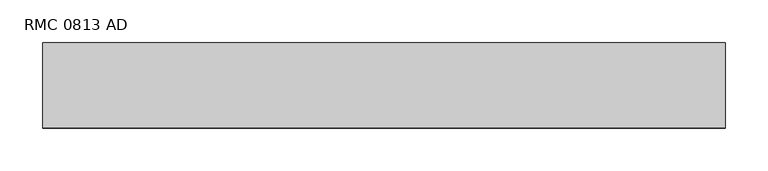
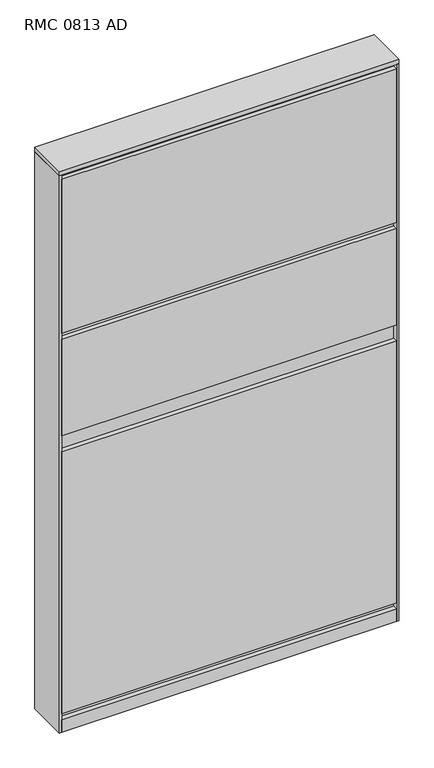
"""IFC4 building model written with IfcOpenShell, lengths in millimetres: furniture geometry, Mobiliário_MobiliáriodeEscritório_LinhaReasons_PainelCego1400mm(Acesso02Lados)-Melamina_Marelli : RMC 0813 AD."""

import ifcopenshell
import ifcopenshell.guid

model = None  # the IFC model being written
_history = None  # IfcOwnerHistory: only IFC2X3 demands one
_inside = {}  # id of a spatial element -> (the spatial element, [elements in it])
_under = {}  # id of a project, library or spatial element -> (it, [spatial elements below it])
_declared = {}  # id of a project -> (the project, [libraries it declares])
_typed = {}  # id of a type object -> (the type object, [elements of that type])
_made_of = {}  # id of a material, layer set ... -> (it, [elements and type objects made of it])


def new_model(schema):
    """Start an empty IFC model of exactly this schema.

    Asked for "IFC4X3", IfcOpenShell would pick the latest addendum, in which some entities
    have other attributes; the version numbers below select the first issue.
    IFC2X3 requires an IfcOwnerHistory on every rooted entity: one is made here for all.
    """
    global model, _history
    if schema == "IFC4X3":
        model = ifcopenshell.file(schema_version=(4, 3, 0, 0))
    else:
        model = ifcopenshell.file(schema=schema)
    _inside.clear()
    _under.clear()
    _declared.clear()
    _typed.clear()
    _made_of.clear()
    _history = None
    if model.schema == "IFC2X3":
        org = make("IfcOrganization", Name="unknown")
        user = make(
            "IfcPersonAndOrganization",
            ThePerson=make("IfcPerson", FamilyName="unknown"),
            TheOrganization=org,
        )
        app = make(
            "IfcApplication",
            ApplicationDeveloper=org,
            Version="unknown",
            ApplicationFullName="unknown",
            ApplicationIdentifier="unknown",
        )
        _history = make(
            "IfcOwnerHistory",
            OwningUser=user,
            OwningApplication=app,
            ChangeAction="ADDED",
            CreationDate=0,
        )
    return model


def make(cls, **values):
    """One entity of the class cls with the attributes given. An attribute that is None is left unset."""
    return model.create_entity(
        cls, **{name: value for name, value in values.items() if value is not None}
    )


def rooted(cls, **values):
    """An entity with a GlobalId (a new one), such as an element, a storey or a relation."""
    return make(cls, GlobalId=ifcopenshell.guid.new(), OwnerHistory=_history, **values)


def si_unit(unit_type, name, prefix=None):
    """IfcSIUnit, for example si_unit("LENGTHUNIT", "METRE", prefix="MILLI")."""
    return make("IfcSIUnit", UnitType=unit_type, Prefix=prefix, Name=name)


def assignment(units):
    """IfcUnitAssignment: the units of a project."""
    return None if units is None else make("IfcUnitAssignment", Units=units)


def point(xyz):
    """IfcCartesianPoint."""
    return None if xyz is None else make("IfcCartesianPoint", Coordinates=xyz)


def direction(xyz):
    """IfcDirection."""
    return None if xyz is None else make("IfcDirection", DirectionRatios=xyz)


def frame(location, z_axis=None, x_axis=None):
    """IfcAxis2Placement3D, a coordinate frame: its origin and axes. An axis left out is left unset."""
    return make(
        "IfcAxis2Placement3D",
        Location=point(location),
        Axis=direction(z_axis),
        RefDirection=direction(x_axis),
    )


def origin():
    """The frame at (0, 0, 0) with its axes left unset."""
    return frame((0.0, 0.0, 0.0))


def origin_with_axes():
    """The frame at (0, 0, 0) with the z axis (0, 0, 1) and the x axis (1, 0, 0) written out."""
    return frame((0.0, 0.0, 0.0), z_axis=(0.0, 0.0, 1.0), x_axis=(1.0, 0.0, 0.0))


def place(relative_to, where):
    """IfcLocalPlacement: puts the frame where relative to a parent placement (None: the world)."""
    return make(
        "IfcLocalPlacement", PlacementRelTo=relative_to, RelativePlacement=where
    )


def context(
    kind, dimensions, precision=None, world=None, true_north=None, identifier=None
):
    """IfcGeometricRepresentationContext, for example the 3D "Model" context."""
    return make(
        "IfcGeometricRepresentationContext",
        ContextIdentifier=identifier,
        ContextType=kind,
        CoordinateSpaceDimension=dimensions,
        Precision=precision,
        WorldCoordinateSystem=world,
        TrueNorth=true_north,
    )


def project(units=None, contexts=None):
    """IfcProject with its units and contexts."""
    return rooted(
        "IfcProject",
        Name="project",
        RepresentationContexts=contexts,
        UnitsInContext=assignment(units),
    )


def spatial(cls, under=None, at=None, **own):
    """A site, building, storey or space (cls), placed at a placement, below another one or the project."""
    s = rooted(cls, ObjectPlacement=at, **own)
    if under is not None:
        _under.setdefault(under.id(), (under, []))[1].append(s)
    return s


def polyline(points):
    """IfcPolyline through the points."""
    return make("IfcPolyline", Points=[point(p) for p in points])


def outline(outer, holes=None, kind="AREA"):
    """IfcArbitraryClosedProfileDef: a profile drawn as a closed curve; with holes, ...WithVoids."""
    if holes is None:
        return make("IfcArbitraryClosedProfileDef", ProfileType=kind, OuterCurve=outer)
    return make(
        "IfcArbitraryProfileDefWithVoids",
        ProfileType=kind,
        OuterCurve=outer,
        InnerCurves=holes,
    )


def extrude(swept, where, along, depth):
    """IfcExtrudedAreaSolid: the profile swept, set in the frame where, extruded along a direction by depth."""
    return make(
        "IfcExtrudedAreaSolid",
        SweptArea=swept,
        Position=where,
        ExtrudedDirection=direction(along),
        Depth=depth,
    )


def shape(context_of_items, identifier, shape_type, items):
    """IfcShapeRepresentation: the items that make up one representation, for example the "Body"."""
    return make(
        "IfcShapeRepresentation",
        ContextOfItems=context_of_items,
        RepresentationIdentifier=identifier,
        RepresentationType=shape_type,
        Items=items,
    )


def source(mapping_origin, context_of_items, identifier, shape_type, items):
    """IfcRepresentationMap: a shape defined once, which mapped items show again and again."""
    return make(
        "IfcRepresentationMap",
        MappingOrigin=mapping_origin,
        MappedRepresentation=shape(context_of_items, identifier, shape_type, items),
    )


def transform(
    local_origin,
    x_axis=None,
    y_axis=None,
    z_axis=None,
    scale=None,
    scale2=None,
    scale3=None,
    uniform=True,
):
    """IfcCartesianTransformationOperator3D, or its non-uniform kind. x_axis, y_axis, z_axis: its Axis1, 2, 3."""
    if uniform:
        return make(
            "IfcCartesianTransformationOperator3D",
            Axis1=direction(x_axis),
            Axis2=direction(y_axis),
            LocalOrigin=point(local_origin),
            Scale=scale,
            Axis3=direction(z_axis),
        )
    return make(
        "IfcCartesianTransformationOperator3DnonUniform",
        Axis1=direction(x_axis),
        Axis2=direction(y_axis),
        LocalOrigin=point(local_origin),
        Scale=scale,
        Axis3=direction(z_axis),
        Scale2=scale2,
        Scale3=scale3,
    )


def mapped(mapping_source, mapping_target):
    """IfcMappedItem: shows the shape of a source again, moved by a transform."""
    return make(
        "IfcMappedItem", MappingSource=mapping_source, MappingTarget=mapping_target
    )


def made_of(thing, what):
    """Note that an element or type object is made of a material, layer set ...; save() writes the relation."""
    if what is not None:
        _made_of.setdefault(what.id(), (what, []))[1].append(thing)
    return thing


def element(
    cls,
    number,
    at=None,
    inside=None,
    cuts=None,
    type_object=None,
    material=None,
    context=None,
    identifier="Body",
    shape_type=None,
    held_by="IfcProductDefinitionShape",
    body=None,
    shapes=None,
    **own,
):
    """One element of the class cls, such as IfcWall. Its Tag is "e" and its number.

    at: its placement. inside: the storey or other place that contains it. cuts: it is an
    opening in that element (IfcRelVoidsElement). A single representation is given by context,
    identifier, shape_type and body (its items); several are given by shapes. held_by: the class
    of the entity that holds the representations. save() writes the other relations.
    """
    e = rooted(cls, Tag="e%d" % number, ObjectPlacement=at, **own)
    if body is not None:
        shapes = [shape(context, identifier, shape_type, body)]
    if shapes is not None:
        e.Representation = make(held_by, Representations=shapes)
    if inside is not None:
        _inside.setdefault(inside.id(), (inside, []))[1].append(e)
    if cuts is not None:
        rooted(
            "IfcRelVoidsElement", RelatingBuildingElement=cuts, RelatedOpeningElement=e
        )
    if type_object is not None:
        _typed.setdefault(type_object.id(), (type_object, []))[1].append(e)
    return made_of(e, material)


def aggregate(whole, parts):
    """IfcRelAggregates: a whole, such as a stair, and the parts it consists of."""
    return rooted("IfcRelAggregates", RelatingObject=whole, RelatedObjects=parts)


def save(model, path):
    """Write the relations noted so far, then the file.

    IfcRelAggregates (storeys below a building ...), IfcRelContainedInSpatialStructure (elements
    in a storey), IfcRelDefinesByType, IfcRelAssociatesMaterial and IfcRelDeclares: one each for
    every whole, place, type object, material and project.
    """
    for whole, parts in _under.values():
        aggregate(whole, parts)
    for where, things in _inside.values():
        rooted(
            "IfcRelContainedInSpatialStructure",
            RelatedElements=things,
            RelatingStructure=where,
        )
    for kind, things in _typed.values():
        rooted("IfcRelDefinesByType", RelatedObjects=things, RelatingType=kind)
    for what, things in _made_of.values():
        rooted("IfcRelAssociatesMaterial", RelatedObjects=things, RelatingMaterial=what)
    for by, libraries in _declared.values():
        rooted("IfcRelDeclares", RelatingContext=by, RelatedDefinitions=libraries)
    model.write(path)


def rmc_0813_ad_bde6f8cc(model_context):
    return source(origin(), model_context, "Body", "SweptSolid", [
        extrude(outline(polyline([(795.0, 100.0), (800.0, 100.0), (800.0, 0.0), (795.0, 0.0), (795.0, 100.0)])), origin_with_axes(), (0.0, 0.0, 1.0), 1389.0),
        extrude(outline(polyline([(800.0, 100.0), (800.0, 0.0), (0.0, 0.0), (0.0, 100.0), (800.0, 100.0)])), frame((0.0, 0.0, 1389.0), z_axis=(0.0, 0.0, 1.0), x_axis=(1.0, 0.0, 0.0)), (0.0, 0.0, 1.0), 11.0),
        extrude(outline(polyline([(5.0, 11.0), (5.0, 89.0), (795.0, 89.0), (795.0, 11.0), (5.0, 11.0)])), origin_with_axes(), (0.0, 0.0, 1.0), 1389.0),
        extrude(outline(polyline([(795.0, 100.0), (795.0, 89.0), (5.0, 89.0), (5.0, 100.0), (795.0, 100.0)])), origin_with_axes(), (0.0, 0.0, 1.0), 32.0),
        extrude(outline(polyline([(795.0, 11.0), (795.0, 0.0), (5.0, 0.0), (5.0, 11.0), (795.0, 11.0)])), origin_with_axes(), (0.0, 0.0, 1.0), 32.0),
        extrude(outline(polyline([(795.0, 11.0), (795.0, 0.0), (5.0, 0.0), (5.0, 11.0), (795.0, 11.0)])), frame((0.0, 0.0, 47.0), z_axis=(0.0, 0.0, 1.0), x_axis=(1.0, 0.0, 0.0)), (0.0, 0.0, 1.0), 653.0),
        extrude(outline(polyline([(795.0, 11.0), (795.0, 0.0), (5.0, 0.0), (5.0, 11.0), (795.0, 11.0)])), frame((0.0, 0.0, 740.0), z_axis=(0.0, 0.0, 1.0), x_axis=(1.0, 0.0, 0.0)), (0.0, 0.0, 1.0), 240.0),
        extrude(outline(polyline([(795.0, 100.0), (795.0, 89.0), (5.0, 89.0), (5.0, 100.0), (795.0, 100.0)])), frame((0.0, 0.0, 47.0), z_axis=(0.0, 0.0, 1.0), x_axis=(1.0, 0.0, 0.0)), (0.0, 0.0, 1.0), 653.0),
        extrude(outline(polyline([(795.0, 100.0), (795.0, 89.0), (5.0, 89.0), (5.0, 100.0), (795.0, 100.0)])), frame((0.0, 0.0, 740.0), z_axis=(0.0, 0.0, 1.0), x_axis=(1.0, 0.0, 0.0)), (0.0, 0.0, 1.0), 240.0),
        extrude(outline(polyline([(0.0, 100.0), (5.0, 100.0), (5.0, 0.0), (0.0, 0.0), (0.0, 100.0)])), origin_with_axes(), (0.0, 0.0, 1.0), 1389.0),
        extrude(outline(polyline([(795.0, 11.0), (795.0, 0.0), (5.0, 0.0), (5.0, 11.0), (795.0, 11.0)])), frame((0.0, 0.0, 995.0), z_axis=(0.0, 0.0, 1.0), x_axis=(1.0, 0.0, 0.0)), (0.0, 0.0, 1.0), 383.5),
        extrude(outline(polyline([(795.0, 100.0), (795.0, 89.0), (5.0, 89.0), (5.0, 100.0), (795.0, 100.0)])), frame((0.0, 0.0, 995.0), z_axis=(0.0, 0.0, 1.0), x_axis=(1.0, 0.0, 0.0)), (0.0, 0.0, 1.0), 383.5),
    ])


if __name__ == "__main__":
    model = new_model("IFC4")
    model_context = context("Model", 3, world=origin())
    ifc_project = project(units=[si_unit("LENGTHUNIT", "METRE", prefix="MILLI")], contexts=[model_context])
    site = spatial("IfcSite", under=ifc_project)
    building = spatial("IfcBuilding", under=site)
    placement = place(None, origin())
    rmc_0813_ad_shape = rmc_0813_ad_bde6f8cc(model_context)
    element("IfcFurniture", 1, ObjectType="Mobiliário_MobiliáriodeEscritório_LinhaReasons_PainelCego1400mm(Acesso02Lados)-Melamina_Marelli : RMC 0813 AD", at=placement, inside=building, context=model_context, shape_type="MappedRepresentation", body=[
        mapped(rmc_0813_ad_shape, transform((0.0, 0.0, 0.0), x_axis=(1.0, 0.0, 0.0), y_axis=(0.0, 1.0, 0.0), z_axis=(0.0, 0.0, 1.0))),
    ])
    save(model, "model.ifc")
